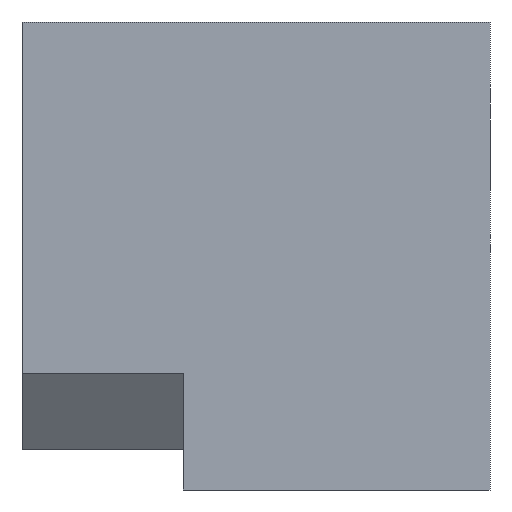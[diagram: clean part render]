
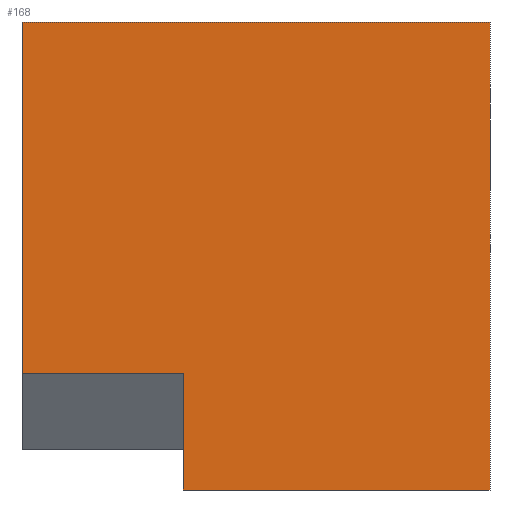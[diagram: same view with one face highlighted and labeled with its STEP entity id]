
A CAD part, left-side view. The second image highlights one B-rep face of the part: STEP entity #168.
In plain terms, the highlighted planar face has unit normal (-1, 0, 0).
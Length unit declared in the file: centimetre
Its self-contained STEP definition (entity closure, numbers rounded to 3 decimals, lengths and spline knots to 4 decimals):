
#5 = EDGE_CURVE ( 'NONE', #887, #1166, #1162, .T. ) ;
#30 = VECTOR ( 'NONE', #1040, 100. ) ;
#47 = CARTESIAN_POINT ( 'NONE',  ( 0., 1000., 1000. ) ) ;
#72 = LINE ( 'NONE', #1483, #30 ) ;
#79 = CARTESIAN_POINT ( 'NONE',  ( 0., 655.0798, 0. ) ) ;
#103 = VERTEX_POINT ( 'NONE', #1254 ) ;
#119 = EDGE_CURVE ( 'NONE', #347, #1166, #1028, .T. ) ;
#120 = ORIENTED_EDGE ( 'NONE', *, *, #801, .F. ) ;
#127 = EDGE_CURVE ( 'NONE', #881, #103, #72, .T. ) ;
#155 = VECTOR ( 'NONE', #742, 100. ) ;
#160 = ORIENTED_EDGE ( 'NONE', *, *, #119, .F. ) ;
#168 = ADVANCED_FACE ( 'NONE', ( #792 ), #818, .F. ) ;
#194 = EDGE_CURVE ( 'NONE', #887, #1053, #382, .T. ) ;
#203 = AXIS2_PLACEMENT_3D ( 'NONE', #669, #1135, #1149 ) ;
#259 = DIRECTION ( 'NONE',  ( 0., 0., 1. ) ) ;
#322 = CARTESIAN_POINT ( 'NONE',  ( 0., 0., 1000. ) ) ;
#327 = CARTESIAN_POINT ( 'NONE',  ( 0., 0., 1000. ) ) ;
#347 = VERTEX_POINT ( 'NONE', #322 ) ;
#354 = CARTESIAN_POINT ( 'NONE',  ( 0., 0., 0. ) ) ;
#382 = LINE ( 'NONE', #868, #1439 ) ;
#383 = VECTOR ( 'NONE', #1494, 100. ) ;
#474 = EDGE_CURVE ( 'NONE', #1053, #103, #724, .T. ) ;
#546 = DIRECTION ( 'NONE',  ( 0., -1., 0. ) ) ;
#661 = ORIENTED_EDGE ( 'NONE', *, *, #127, .T. ) ;
#669 = CARTESIAN_POINT ( 'NONE',  ( 0., 1000., 1000. ) ) ;
#681 = CARTESIAN_POINT ( 'NONE',  ( 0., 1000., 0. ) ) ;
#724 = LINE ( 'NONE', #832, #1021 ) ;
#742 = DIRECTION ( 'NONE',  ( 0., -1., 0. ) ) ;
#792 = FACE_OUTER_BOUND ( 'NONE', #1041, .T. ) ;
#801 = EDGE_CURVE ( 'NONE', #881, #347, #1234, .T. ) ;
#818 = PLANE ( 'NONE',  #203 ) ;
#822 = DIRECTION ( 'NONE',  ( 0., 1., 0. ) ) ;
#832 = CARTESIAN_POINT ( 'NONE',  ( 0., 655.0798, 249.5669 ) ) ;
#868 = CARTESIAN_POINT ( 'NONE',  ( 0., 655.0798, 249.5669 ) ) ;
#881 = VERTEX_POINT ( 'NONE', #47 ) ;
#887 = VERTEX_POINT ( 'NONE', #79 ) ;
#930 = ORIENTED_EDGE ( 'NONE', *, *, #5, .T. ) ;
#955 = ORIENTED_EDGE ( 'NONE', *, *, #474, .F. ) ;
#1005 = CARTESIAN_POINT ( 'NONE',  ( 0., 1000., 1000. ) ) ;
#1021 = VECTOR ( 'NONE', #822, 100. ) ;
#1028 = LINE ( 'NONE', #327, #383 ) ;
#1039 = CARTESIAN_POINT ( 'NONE',  ( 0., 655.0798, 249.5669 ) ) ;
#1040 = DIRECTION ( 'NONE',  ( 0., 0., -1. ) ) ;
#1041 = EDGE_LOOP ( 'NONE', ( #661, #955, #1119, #930, #160, #120 ) ) ;
#1053 = VERTEX_POINT ( 'NONE', #1039 ) ;
#1074 = VECTOR ( 'NONE', #546, 100. ) ;
#1119 = ORIENTED_EDGE ( 'NONE', *, *, #194, .F. ) ;
#1135 = DIRECTION ( 'NONE',  ( 1., 0., 0. ) ) ;
#1149 = DIRECTION ( 'NONE',  ( 0., 0., -1. ) ) ;
#1162 = LINE ( 'NONE', #681, #155 ) ;
#1166 = VERTEX_POINT ( 'NONE', #354 ) ;
#1234 = LINE ( 'NONE', #1005, #1074 ) ;
#1254 = CARTESIAN_POINT ( 'NONE',  ( 0., 1000., 249.5669 ) ) ;
#1439 = VECTOR ( 'NONE', #259, 100. ) ;
#1483 = CARTESIAN_POINT ( 'NONE',  ( 0., 1000., 1000. ) ) ;
#1494 = DIRECTION ( 'NONE',  ( 0., 0., -1. ) ) ;
